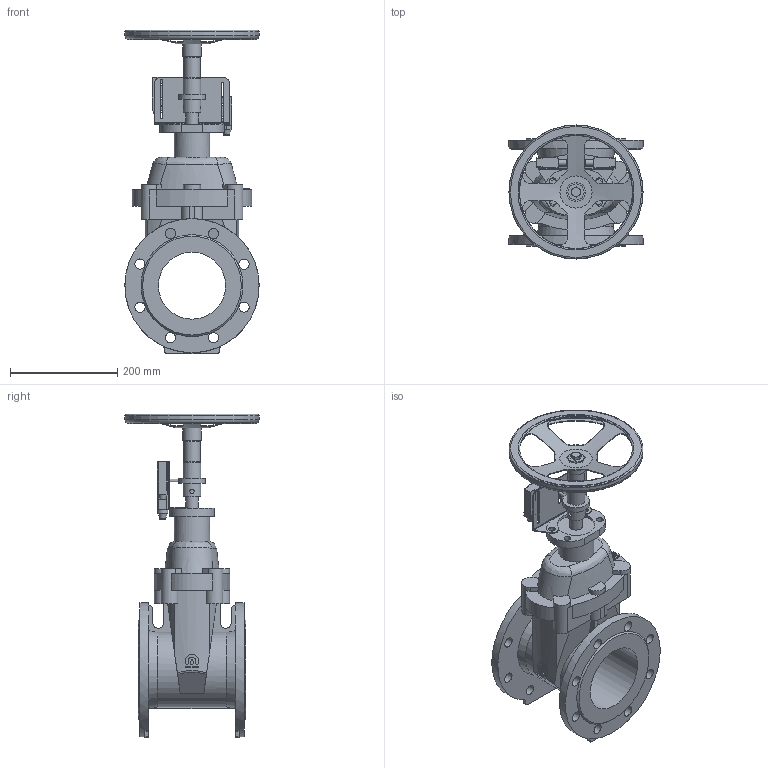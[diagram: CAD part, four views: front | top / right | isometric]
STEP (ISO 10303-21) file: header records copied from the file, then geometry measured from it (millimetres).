
FILE_DESCRIPTION(('STEP AP203'), '1');
FILE_NAME('Çàäâèæêà 47GV.M DN125 ñ ìàõîâèêîì è ÓÊÏ', '', ('UNSPECIFIED'), ('UNSPECIFIED'), 'ASCON STEP Converter 1.6', 'ASCON Math Kernel', '');
FILE_SCHEMA(('CONFIG_CONTROL_DESIGN'));
Length unit declared in the file: millimetre
Bounding box: 250 x 250 x 603 mm (x, y, z)
Volume: 5448774.6 mm3; surface area: 642650.2 mm2
Topology: 4 solids, 4 shells, 459 faces, 1176 edges, 748 vertices
Faces by surface type: plane 233, cylinder 185, cone 19, bspline 10, torus 8, sphere 4
Full cylindrical faces by diameter (mm): 4 x4, 4.917 x1, 6 x1, 8 x2, 12 x8, 13 x2, 14 x2, 19 x16, 24 x1, 30 x2, 33 x2, 35 x1, 50 x1, 66 x1, 70 x1, 125 x1, 213 x1, 247 x1, 250 x3
Entity records: 23519 total; most frequent: CARTESIAN_POINT 8877, DIRECTION 2242, ORIENTED_EDGE 2200, EDGE_CURVE 1100, AXIS2_PLACEMENT_3D 856, VERTEX_POINT 748, EDGE_LOOP 622, LINE 530
